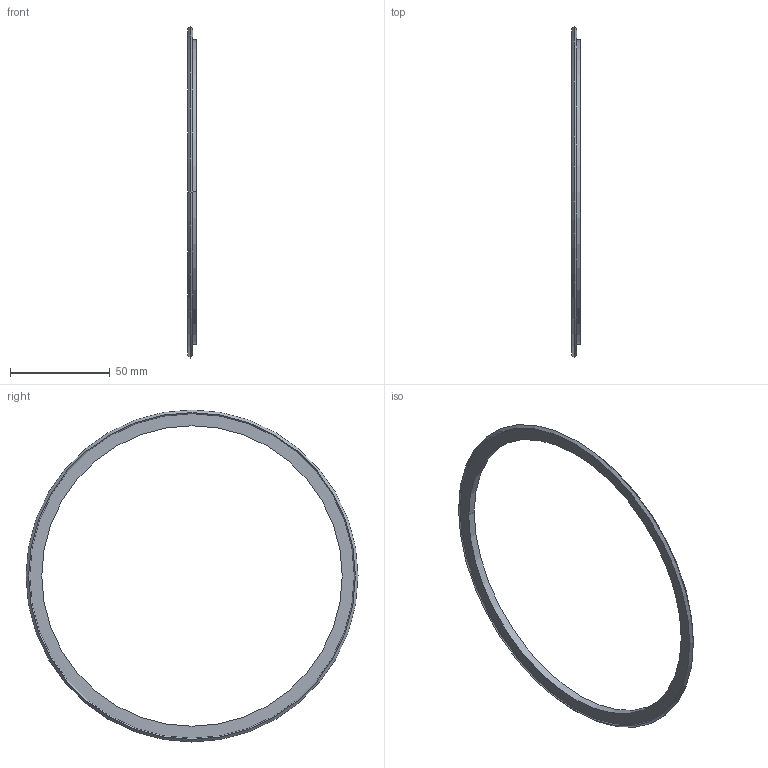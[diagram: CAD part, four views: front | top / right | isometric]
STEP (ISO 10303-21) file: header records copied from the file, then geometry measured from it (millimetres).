
FILE_DESCRIPTION((''),'2;1');
FILE_NAME('W:\212-303.stp','2004-01-08T15:56:35',('KAA'),(''),'Autodesk Inventor (R) 6.0','Autodesk Inventor (R) 6.0','');
FILE_SCHEMA(('CONFIG_CONTROL_DESIGN'));
Length unit declared in the file: millimetre
Products named in the file (1): 212-303
Bounding box: 4.5 x 166.6 x 166.6 mm (x, y, z)
Volume: 7111.1 mm3; surface area: 11635.7 mm2
Topology: 1 solids, 1 shells, 17 faces, 37 edges, 23 vertices
Faces by surface type: cone 8, cylinder 4, plane 3, bspline 2
Entity records: 655 total; most frequent: CARTESIAN_POINT 166, DIRECTION 94, ORIENTED_EDGE 74, AXIS2_PLACEMENT_3D 41, EDGE_CURVE 37, CIRCLE 25, VERTEX_POINT 23, EDGE_LOOP 20
